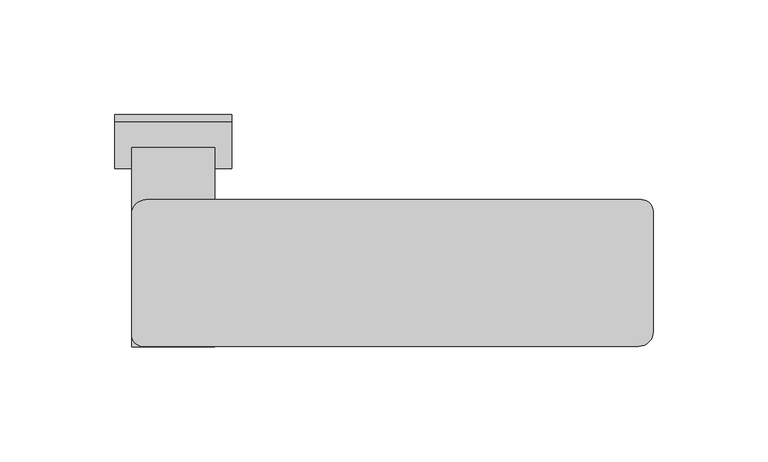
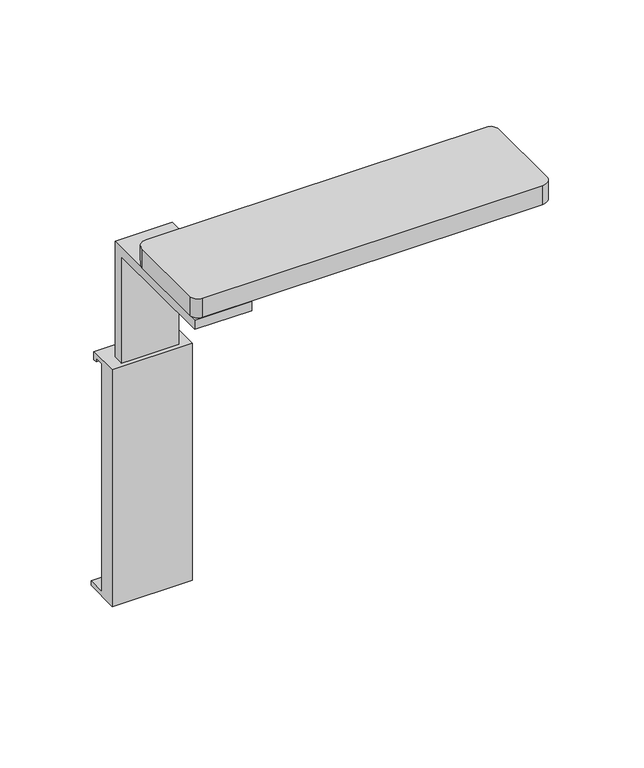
"""IFC4 building model written with IfcOpenShell, lengths in millimetres: furniture geometry, Steelcase - C Scape - Desking Support - Desk Tether Bracket and Shared Support Plate : Daisy Chain Application."""

from ifc_helpers import new_model, si_unit, point, frame, frame_2d, origin, place, context, project, spatial, polyline, circle_curve, trimmed, segment, composite_curve, outline, extrude, source, transform, mapped, element, save


def furniture_f726599f(model_context):
    return source(origin(), model_context, "Body", "SweptSolid", [
        extrude(outline(composite_curve([segment(trimmed(circle_curve(frame_2d((235.3879542, -31.0715824)), 5.1421074), [point((235.3879542, -25.929475))], [point((240.5300616, -31.0715824))], False, "CARTESIAN"), True, "CONTINUOUS"), segment(polyline([(240.5300616, -31.0715824), (240.5300616, -83.485875)]), True, "CONTINUOUS"), segment(trimmed(circle_curve(frame_2d((234.1800616, -83.485875)), 6.35), [point((240.5300616, -83.485875))], [point((234.1800616, -89.835875))], False, "CARTESIAN"), True, "CONTINUOUS"), segment(polyline([(234.1800616, -89.835875), (18.5550667, -89.835875)]), True, "CONTINUOUS"), segment(trimmed(circle_curve(frame_2d((18.5550667, -84.735871)), 5.100004), [point((18.5550667, -89.835875))], [point((13.4550627, -84.735871))], False, "CARTESIAN"), True, "CONTINUOUS"), segment(polyline([(13.4550627, -84.735871), (13.4550627, -32.279475)]), True, "CONTINUOUS"), segment(trimmed(circle_curve(frame_2d((19.8050627, -32.279475)), 6.35), [point((13.4550627, -32.279475))], [point((19.8050627, -25.929475))], False, "CARTESIAN"), True, "CONTINUOUS"), segment(polyline([(19.8050627, -25.929475), (235.3879542, -25.929475)]), True, "CONTINUOUS")], self_intersect=False)), frame((0.0, 0.0, 690.6768099), z_axis=(0.0, 0.0, 1.0), x_axis=(1.0, 0.0, 0.0)), (0.0, 0.0, 1.0), 12.6999901),
        extrude(outline(polyline([(-12.3825001, 612.597266), (7.8848708, 612.597266), (7.8848708, 607.1362696), (5.5988706, 607.1362696), (5.5988706, 609.6000002), (-0.6985001, 609.6000002), (-0.6985001, 456.857166), (11.1125, 456.857166), (11.1125, 453.847266), (-12.3825001, 453.847266), (-12.3825001, 612.597266)])), frame((6.1779627, 0.0, 0.0), z_axis=(1.0, 0.0, 0.0), x_axis=(0.0, 1.0, 0.0)), (0.0, 0.0, 1.0), 50.8),
        extrude(outline(polyline([(-90.1065001, 684.3268), (-90.1065001, 690.6768099), (-3.1115001, 690.6768099), (-3.1115001, 612.5972734), (-9.7155001, 612.5972734), (-9.7155001, 684.3268), (-90.1065001, 684.3268)])), frame((13.4550627, 0.0, 0.0), z_axis=(1.0, 0.0, 0.0), x_axis=(0.0, 1.0, 0.0)), (0.0, 0.0, 1.0), 36.195),
    ])


if __name__ == "__main__":
    model = new_model("IFC4")
    model_context = context("Model", 3, world=origin())
    ifc_project = project(units=[si_unit("LENGTHUNIT", "METRE", prefix="MILLI")], contexts=[model_context])
    site = spatial("IfcSite", under=ifc_project)
    building = spatial("IfcBuilding", under=site)
    placement = place(None, origin())
    furniture_shape = furniture_f726599f(model_context)
    element("IfcFurniture", 1, ObjectType="Steelcase - C Scape - Desking Support - Desk Tether Bracket and Shared Support Plate : Daisy Chain Application", at=placement, inside=building, context=model_context, shape_type="MappedRepresentation", body=[
        mapped(furniture_shape, transform((0.0, 0.0, 0.0), x_axis=(1.0, 0.0, 0.0), y_axis=(0.0, 1.0, 0.0), z_axis=(0.0, 0.0, 1.0))),
    ])
    save(model, "model.ifc")
